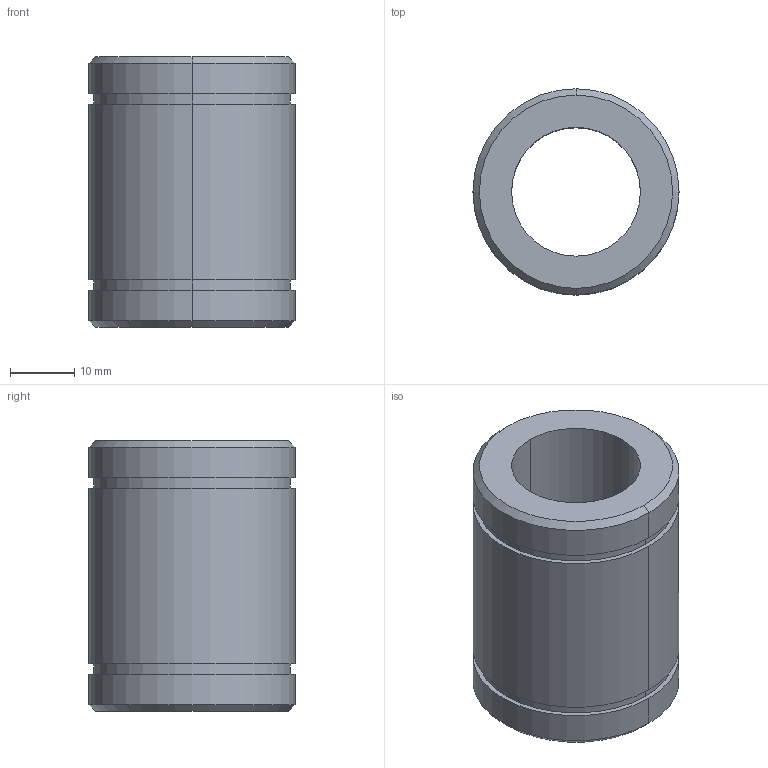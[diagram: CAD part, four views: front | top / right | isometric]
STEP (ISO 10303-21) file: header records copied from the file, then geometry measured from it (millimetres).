
FILE_DESCRIPTION (( 'STEP AP214' ), '1' );
FILE_NAME ('2.7010 Lineaarilaakeri LM20UU.STEP', '2024-06-17T07:40:13', ( '' ), ( '' ), 'SwSTEP 2.0', 'SolidWorks 2024', '' );
FILE_SCHEMA (( 'AUTOMOTIVE_DESIGN' ));
Length unit declared in the file: millimetre
Products named in the file (1): 2.7010 Lineaarilaakeri LM20UU
Bounding box: 32 x 32 x 42 mm (x, y, z)
Volume: 20249.7 mm3; surface area: 8000.5 mm2
Topology: 1 solids, 1 shells, 22 faces, 44 edges, 28 vertices
Faces by surface type: cylinder 12, plane 6, cone 4
Entity records: 611 total; most frequent: DIRECTION 118, CARTESIAN_POINT 95, ORIENTED_EDGE 88, AXIS2_PLACEMENT_3D 51, EDGE_CURVE 44, VERTEX_POINT 28, CIRCLE 28, EDGE_LOOP 28
